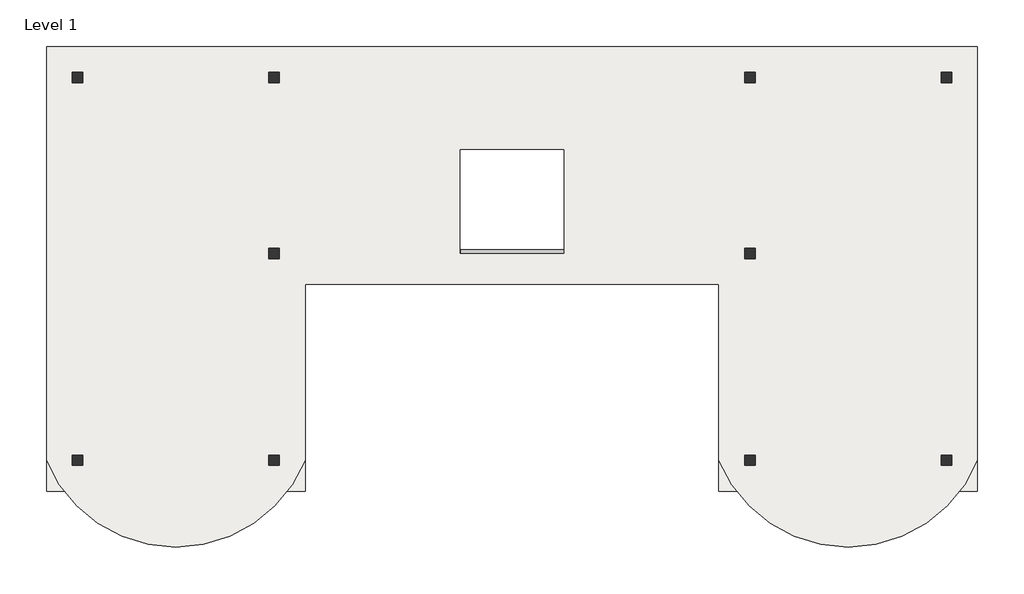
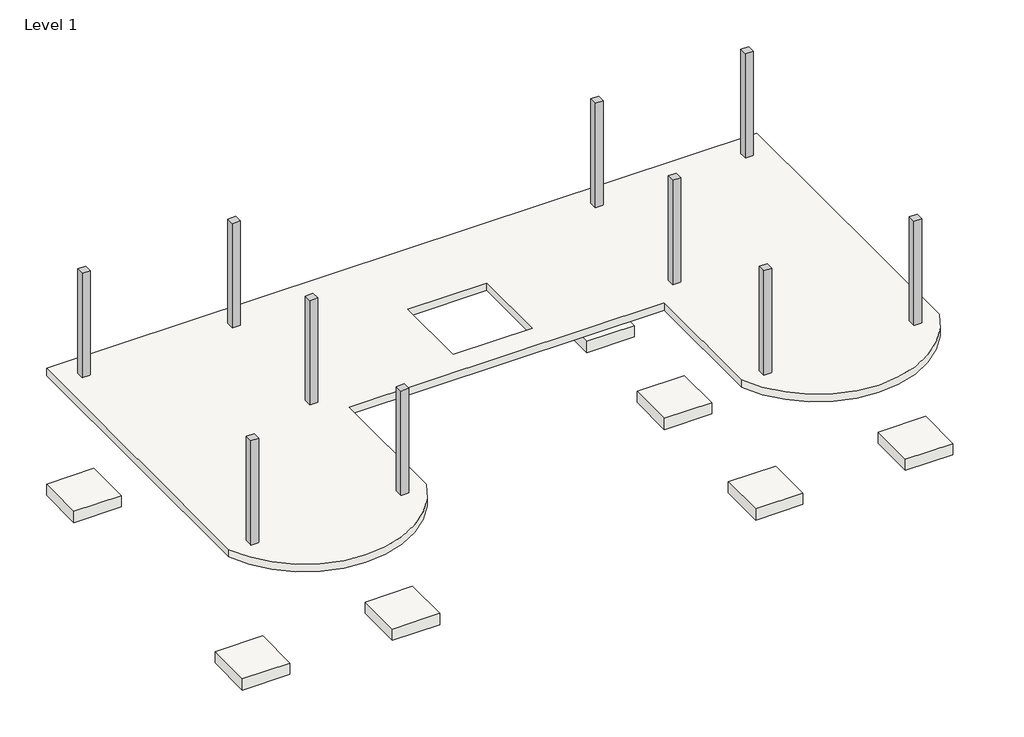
# One storey: 11 slabs, 10 columns, 4 beams.
"""IFC4 building model written with IfcOpenShell, lengths in millimetres."""

from ifc_helpers import new_model, si_unit, point, frame, frame_2d, origin, place, context, project, spatial, polyline, circle_curve, trimmed, segment, composite_curve, outline, extrude, transform, mapped, element, save
from components import slab_6d6a3403

model = new_model("IFC4")

# Units and contexts
model_context = context("Model", 3, world=origin())
ifc_project = project(units=[si_unit("LENGTHUNIT", "METRE", prefix="MILLI")], contexts=[model_context])

# Site, building, storey
site = spatial("IfcSite", under=ifc_project)
building = spatial("IfcBuilding", under=site)
storey = spatial("IfcBuildingStorey", under=building, Name="Level 1", Elevation=0.0)

# Beams
placement = place(None, origin())
element("IfcBeam", 1, ObjectType="Concrete-Rectangular Beam : 8 x 18", at=placement, inside=storey, context=model_context, shape_type="SweptSolid", body=[
    extrude(outline(polyline([(12191.9997848, 6197.6001945), (12191.9997848, 5994.4001945), (6858.0, 5994.4001945), (6858.0, 6197.6001945), (12191.9997848, 6197.6001945)])), frame((0.0, 0.0, -609.6000122), z_axis=(0.0, 0.0, 1.0), x_axis=(1.0, 0.0, 0.0)), (0.0, 0.0, 1.0), 457.2),
])
element("IfcBeam", 2, ObjectType="Concrete-Rectangular Beam : 8 x 18", at=placement, inside=storey, context=model_context, shape_type="SweptSolid", body=[
    extrude(outline(polyline([(15240.000389, 6197.6001945), (15240.000389, 5994.4001945), (12191.9997848, 5994.4001945), (12191.9997848, 6197.6001945), (15240.000389, 6197.6001945)])), frame((0.0, 0.0, -609.6000122), z_axis=(0.0, 0.0, 1.0), x_axis=(1.0, 0.0, 0.0)), (0.0, 0.0, 1.0), 457.2),
])
element("IfcBeam", 3, ObjectType="Concrete-Rectangular Beam : 8 x 18", at=placement, inside=storey, context=model_context, shape_type="SweptSolid", body=[
    extrude(outline(polyline([(15240.000389, 5994.4001945), (15240.000389, 6197.6001945), (20573.9989999, 6197.6001945), (20573.9989999, 5994.4001945), (15240.000389, 5994.4001945)])), frame((0.0, 0.0, -609.6000122), z_axis=(0.0, 0.0, 1.0), x_axis=(1.0, 0.0, 0.0)), (0.0, 0.0, 1.0), 457.2),
])
element("IfcBeam", 4, ObjectType="Concrete-Rectangular Beam : 8 x 18", at=placement, inside=storey, context=model_context, shape_type="SweptSolid", body=[
    extrude(outline(polyline([(6858.0, 11176.0002883), (6858.0, 11379.2002883), (20573.9989999, 11379.2002883), (20573.9989999, 11176.0002883), (6858.0, 11176.0002883)])), frame((0.0, 0.0, -609.6000122), z_axis=(0.0, 0.0, 1.0), x_axis=(1.0, 0.0, 0.0)), (0.0, 0.0, 1.0), 457.2),
])

# Columns
element("IfcColumn", 5, ObjectType="Concrete-Rectangular-Column : 12 x 12", at=placement, inside=storey, context=model_context, shape_type="SweptSolid", body=[
    extrude(outline(polyline([(762.0, 152.4), (1066.8, 152.4), (1066.8, -152.4), (762.0, -152.4), (762.0, 152.4)])), frame((0.0, 0.0, 152.4), z_axis=(0.0, 0.0, 1.0), x_axis=(1.0, 0.0, 0.0)), (0.0, 0.0, 1.0), 4267.2),
])
element("IfcColumn", 6, ObjectType="Concrete-Rectangular-Column : 12 x 12", at=placement, inside=storey, context=model_context, shape_type="SweptSolid", body=[
    extrude(outline(polyline([(6553.2, 152.4), (6858.0, 152.4), (6858.0, -152.4), (6553.2, -152.4), (6553.2, 152.4)])), frame((0.0, 0.0, 152.4), z_axis=(0.0, 0.0, 1.0), x_axis=(1.0, 0.0, 0.0)), (0.0, 0.0, 1.0), 4267.2),
])
element("IfcColumn", 7, ObjectType="Concrete-Rectangular-Column : 12 x 12", at=placement, inside=storey, context=model_context, shape_type="SweptSolid", body=[
    extrude(outline(polyline([(6553.2, 6248.4), (6858.0, 6248.4), (6858.0, 5943.6), (6553.2, 5943.6), (6553.2, 6248.4)])), frame((0.0, 0.0, 152.4), z_axis=(0.0, 0.0, 1.0), x_axis=(1.0, 0.0, 0.0)), (0.0, 0.0, 1.0), 4267.2),
])
element("IfcColumn", 8, ObjectType="Concrete-Rectangular-Column : 12 x 12", at=placement, inside=storey, context=model_context, shape_type="SweptSolid", body=[
    extrude(outline(polyline([(6553.2, 11430.0), (6858.0, 11430.0), (6858.0, 11125.2), (6553.2, 11125.2), (6553.2, 11430.0)])), frame((0.0, 0.0, 152.4), z_axis=(0.0, 0.0, 1.0), x_axis=(1.0, 0.0, 0.0)), (0.0, 0.0, 1.0), 4267.2),
])
element("IfcColumn", 9, ObjectType="Concrete-Rectangular-Column : 12 x 12", at=placement, inside=storey, context=model_context, shape_type="SweptSolid", body=[
    extrude(outline(polyline([(762.0, 11430.0), (1066.8, 11430.0), (1066.8, 11125.2), (762.0, 11125.2), (762.0, 11430.0)])), frame((0.0, 0.0, 152.4), z_axis=(0.0, 0.0, 1.0), x_axis=(1.0, 0.0, 0.0)), (0.0, 0.0, 1.0), 4267.2),
])
element("IfcColumn", 10, ObjectType="Concrete-Rectangular-Column : 12 x 12", at=placement, inside=storey, context=model_context, shape_type="SweptSolid", body=[
    extrude(outline(polyline([(26365.1989999, 152.4), (26669.9989999, 152.4), (26669.9989999, -152.4), (26365.1989999, -152.4), (26365.1989999, 152.4)])), frame((0.0, 0.0, 152.4), z_axis=(0.0, 0.0, 1.0), x_axis=(1.0, 0.0, 0.0)), (0.0, 0.0, 1.0), 4267.2),
])
element("IfcColumn", 11, ObjectType="Concrete-Rectangular-Column : 12 x 12", at=placement, inside=storey, context=model_context, shape_type="SweptSolid", body=[
    extrude(outline(polyline([(20573.9989999, 152.4), (20878.7989999, 152.4), (20878.7989999, -152.4), (20573.9989999, -152.4), (20573.9989999, 152.4)])), frame((0.0, 0.0, 152.4), z_axis=(0.0, 0.0, 1.0), x_axis=(1.0, 0.0, 0.0)), (0.0, 0.0, 1.0), 4267.2),
])
element("IfcColumn", 12, ObjectType="Concrete-Rectangular-Column : 12 x 12", at=placement, inside=storey, context=model_context, shape_type="SweptSolid", body=[
    extrude(outline(polyline([(20573.9989999, 6248.4), (20878.7989999, 6248.4), (20878.7989999, 5943.6), (20573.9989999, 5943.6), (20573.9989999, 6248.4)])), frame((0.0, 0.0, 152.4), z_axis=(0.0, 0.0, 1.0), x_axis=(1.0, 0.0, 0.0)), (0.0, 0.0, 1.0), 4267.2),
])
element("IfcColumn", 13, ObjectType="Concrete-Rectangular-Column : 12 x 12", at=placement, inside=storey, context=model_context, shape_type="SweptSolid", body=[
    extrude(outline(polyline([(20573.9989999, 11430.0), (20878.7989999, 11430.0), (20878.7989999, 11125.2), (20573.9989999, 11125.2), (20573.9989999, 11430.0)])), frame((0.0, 0.0, 152.4), z_axis=(0.0, 0.0, 1.0), x_axis=(1.0, 0.0, 0.0)), (0.0, 0.0, 1.0), 4267.2),
])
element("IfcColumn", 14, ObjectType="Concrete-Rectangular-Column : 12 x 12", at=placement, inside=storey, context=model_context, shape_type="SweptSolid", body=[
    extrude(outline(polyline([(26365.1989999, 11430.0), (26669.9989999, 11430.0), (26669.9989999, 11125.2), (26365.1989999, 11125.2), (26365.1989999, 11430.0)])), frame((0.0, 0.0, 152.4), z_axis=(0.0, 0.0, 1.0), x_axis=(1.0, 0.0, 0.0)), (0.0, 0.0, 1.0), 4267.2),
])

# Slabs
element("IfcSlab", 15, ObjectType="Concrete f'c = 4000 psi - 12in", at=placement, inside=storey, context=model_context, shape_type="SweptSolid", body=[
    extrude(outline(composite_curve([segment(polyline([(0.0, 0.0), (0.0, 12192.0), (27431.9989999, 12192.0), (27431.9989999, 0.0)]), True, "CONTINUOUS"), segment(trimmed(circle_curve(frame_2d((23621.9989999, 1554.1825173)), 4114.8005173), [point((27431.9989999, 0.0))], [point((19811.9989999, 0.0))], False, "CARTESIAN"), True, "CONTINUOUS"), segment(polyline([(19811.9989999, 0.0), (19811.9999999, 5181.6), (7620.0, 5181.6), (7620.0, 0.0)]), True, "CONTINUOUS"), segment(trimmed(circle_curve(frame_2d((3810.0, 1554.1825173)), 4114.8005173), [point((7620.0, 0.0))], [point((0.0, 0.0))], False, "CARTESIAN"), True, "CONTINUOUS")], self_intersect=False), holes=[polyline([(12192.0, 6096.0), (15239.9999999, 6096.0), (15239.9999999, 9144.0), (12192.0, 9144.0), (12192.0, 6096.0)])]), frame((0.0, 0.0, -152.4), z_axis=(0.0, 0.0, 1.0), x_axis=(1.0, 0.0, 0.0)), (0.0, 0.0, 1.0), 304.8),
])
slab_shape = slab_6d6a3403(model_context)
element("IfcSlab", 16, ObjectType="Footing-Rectangular : 72\" x 48\" x 18\"", at=placement, inside=storey, context=model_context, shape_type="MappedRepresentation", body=[
    mapped(slab_shape, transform((914.4, 0.0, -4572.0), x_axis=(1.0, 0.0, 0.0), y_axis=(0.0, 1.0, 0.0), z_axis=(0.0, 0.0, 1.0))),
])
element("IfcSlab", 17, ObjectType="Footing-Rectangular : 72\" x 48\" x 18\"", at=placement, inside=storey, context=model_context, shape_type="MappedRepresentation", body=[
    mapped(slab_shape, transform((6705.6, 0.0, -4572.0), x_axis=(1.0, 0.0, 0.0), y_axis=(0.0, 1.0, 0.0), z_axis=(0.0, 0.0, 1.0))),
])
element("IfcSlab", 18, ObjectType="Footing-Rectangular : 72\" x 48\" x 18\"", at=placement, inside=storey, context=model_context, shape_type="MappedRepresentation", body=[
    mapped(slab_shape, transform((6705.6, 6096.0, -4572.0), x_axis=(1.0, 0.0, 0.0), y_axis=(0.0, 1.0, 0.0), z_axis=(0.0, 0.0, 1.0))),
])
element("IfcSlab", 19, ObjectType="Footing-Rectangular : 72\" x 48\" x 18\"", at=placement, inside=storey, context=model_context, shape_type="MappedRepresentation", body=[
    mapped(slab_shape, transform((6705.6, 11277.6, -4572.0), x_axis=(1.0, 0.0, 0.0), y_axis=(0.0, 1.0, 0.0), z_axis=(0.0, 0.0, 1.0))),
])
element("IfcSlab", 20, ObjectType="Footing-Rectangular : 72\" x 48\" x 18\"", at=placement, inside=storey, context=model_context, shape_type="MappedRepresentation", body=[
    mapped(slab_shape, transform((914.4, 11277.6, -4572.0), x_axis=(1.0, 0.0, 0.0), y_axis=(0.0, 1.0, 0.0), z_axis=(0.0, 0.0, 1.0))),
])
element("IfcSlab", 21, ObjectType="Footing-Rectangular : 72\" x 48\" x 18\"", at=placement, inside=storey, context=model_context, shape_type="MappedRepresentation", body=[
    mapped(slab_shape, transform((20726.3989999, 11277.6, -4572.0), x_axis=(1.0, 0.0, 0.0), y_axis=(0.0, 1.0, 0.0), z_axis=(0.0, 0.0, 1.0))),
])
element("IfcSlab", 22, ObjectType="Footing-Rectangular : 72\" x 48\" x 18\"", at=placement, inside=storey, context=model_context, shape_type="MappedRepresentation", body=[
    mapped(slab_shape, transform((26517.5989999, 11277.6, -4572.0), x_axis=(1.0, 0.0, 0.0), y_axis=(0.0, 1.0, 0.0), z_axis=(0.0, 0.0, 1.0))),
])
element("IfcSlab", 23, ObjectType="Footing-Rectangular : 72\" x 48\" x 18\"", at=placement, inside=storey, context=model_context, shape_type="MappedRepresentation", body=[
    mapped(slab_shape, transform((20726.3989999, 6096.0, -4572.0), x_axis=(1.0, 0.0, 0.0), y_axis=(0.0, 1.0, 0.0), z_axis=(0.0, 0.0, 1.0))),
])
element("IfcSlab", 24, ObjectType="Footing-Rectangular : 72\" x 48\" x 18\"", at=placement, inside=storey, context=model_context, shape_type="MappedRepresentation", body=[
    mapped(slab_shape, transform((20726.3989999, 0.0, -4572.0), x_axis=(1.0, 0.0, 0.0), y_axis=(0.0, 1.0, 0.0), z_axis=(0.0, 0.0, 1.0))),
])
element("IfcSlab", 25, ObjectType="Footing-Rectangular : 72\" x 48\" x 18\"", at=placement, inside=storey, context=model_context, shape_type="MappedRepresentation", body=[
    mapped(slab_shape, transform((26517.5989999, 0.0, -4572.0), x_axis=(1.0, 0.0, 0.0), y_axis=(0.0, 1.0, 0.0), z_axis=(0.0, 0.0, 1.0))),
])

save(model, "model.ifc")
